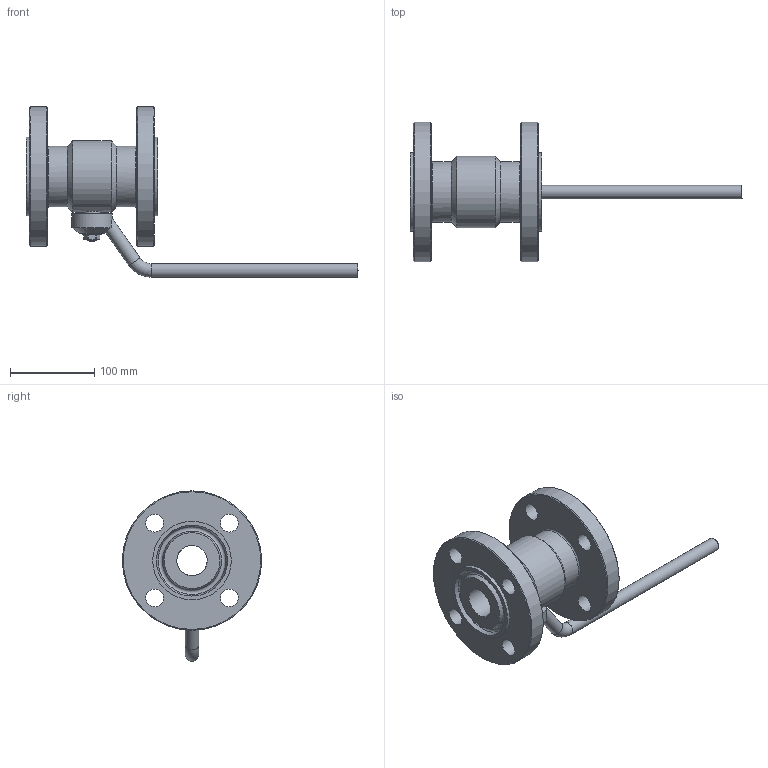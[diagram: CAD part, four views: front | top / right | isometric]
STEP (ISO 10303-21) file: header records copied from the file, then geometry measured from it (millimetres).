
FILE_DESCRIPTION(('STEP AP203'), '1');
FILE_NAME('ZARD 040.063.27.P.stp', '2013-12-06T06:49:24', ('User'), ('Computer'), 'ASCON STEP Converter 1.3', 'Kompas 3D', '');
FILE_SCHEMA(('CONFIG_CONTROL_DESIGN','SUPPORT_RESOURCE_SCHEMA'));
Length unit declared in the file: millimetre
Products named in the file (1): 91
Bounding box: 393.01 x 165 x 201.5 mm (x, y, z)
Volume: 1280455.7 mm3; surface area: 184371 mm2
Topology: 1 solids, 2 shells, 169 faces, 391 edges, 244 vertices
Faces by surface type: plane 76, cylinder 57, cone 24, torus 12
Full cylindrical faces by diameter (mm): 6 x1, 10 x2, 16 x3, 16.1 x1, 21 x8, 21.8 x1, 22 x2, 24.3 x1, 24.5 x1, 36 x2, 48 x1, 58.4 x1, 72 x2, 84.5 x1, 93 x2, 165 x2
Entity records: 6142 total; most frequent: CARTESIAN_POINT 2114, DIRECTION 857, ORIENTED_EDGE 782, EDGE_CURVE 391, AXIS2_PLACEMENT_3D 337, VERTEX_POINT 244, EDGE_LOOP 209, LINE 183
